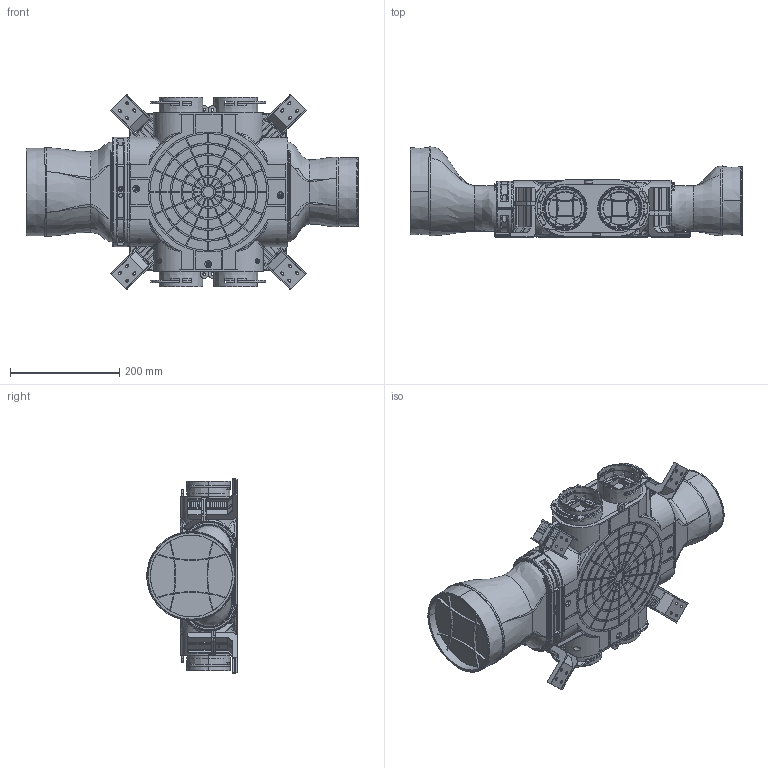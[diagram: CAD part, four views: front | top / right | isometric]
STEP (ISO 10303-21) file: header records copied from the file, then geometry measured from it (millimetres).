
FILE_DESCRIPTION((''),'2;1');
FILE_NAME('VCB160-4-P125_UPR_ASM','2025-12-29T15:52:54',('niepogodzinskij'),(''),'CREO PARAMETRIC BY PTC INC, 2025010','CREO PARAMETRIC BY PTC INC, 2025010','');
FILE_SCHEMA(('CONFIG_CONTROL_DESIGN'));
Products named in the file (8): 0VCBOP_OBUD_VCB_PELNA_1_1_2; 0VCBP75X2_1_1_2; 0VPEO_OBEJMA_1_1_2; 0VCBP125_PRZYLACZE125_1_1_2; 0VBWM_WSPORNIK_VPB_VCB_1_1_2; 0VCBP160_PRZYLACZE160_1; ASM0001_ASM_1_1_2_ASM; VCB160-4-P125_UPR_ASM
Assembly tree (13 placements, depth 3):
  VCB160-4-P125_UPR_ASM
    ASM0001_ASM_1_1_2_ASM
      0VCBOP_OBUD_VCB_PELNA_1_1_2  x2
      0VCBP75X2_1_1_2  x2
      0VPEO_OBEJMA_1_1_2  x2
      0VCBP125_PRZYLACZE125_1_1_2
      0VBWM_WSPORNIK_VPB_VCB_1_1_2  x4
      0VCBP160_PRZYLACZE160_1
Bounding box: 607.25 x 164.79 x 357.57 mm (x, y, z)
Volume: 11283838.9 mm3; surface area: 1058546.3 mm2
Topology: 12 solids, 18 shells, 4955 faces, 13300 edges, 8338 vertices
Faces by surface type: plane 2069, cylinder 1091, torus 666, bspline 576, cone 412, sphere 124, extrusion 17
Entity records: 113606 total; most frequent: CARTESIAN_POINT 50626, ORIENTED_EDGE 13660, DIRECTION 12960, EDGE_CURVE 6830, AXIS2_PLACEMENT_3D 5153, VERTEX_POINT 4287, CIRCLE 2854, EDGE_LOOP 2719
